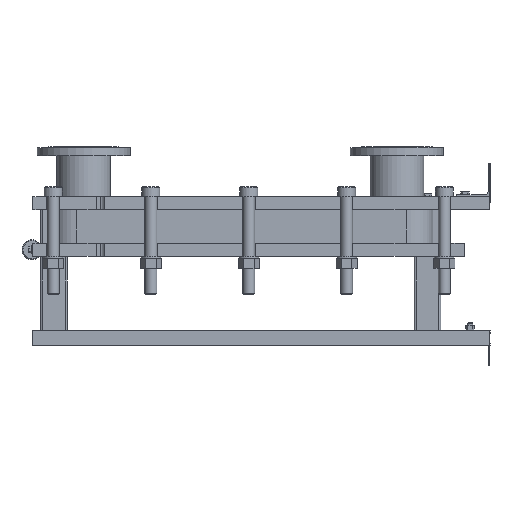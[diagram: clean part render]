
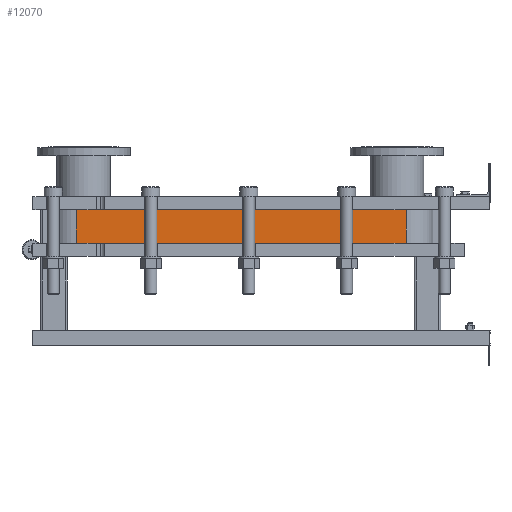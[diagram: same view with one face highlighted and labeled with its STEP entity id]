
A CAD part, left-side view. The second image highlights one B-rep face of the part: STEP entity #12070.
In plain terms, the highlighted planar face has unit normal (-1, 0, 0).
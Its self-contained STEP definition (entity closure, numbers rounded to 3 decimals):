
#1064=LINE('',#21140,#2164);
#1065=LINE('',#21144,#2165);
#1066=LINE('',#21146,#2166);
#1067=LINE('',#21147,#2167);
#2164=VECTOR('',#15790,10.);
#2165=VECTOR('',#15795,10.);
#2166=VECTOR('',#15796,10.);
#2167=VECTOR('',#15797,10.);
#3304=FACE_OUTER_BOUND('',#4091,.T.);
#4091=EDGE_LOOP('',(#9793,#9794,#9795,#9796));
#5677=VERTEX_POINT('',#21137);
#5678=VERTEX_POINT('',#21139);
#5679=VERTEX_POINT('',#21143);
#5680=VERTEX_POINT('',#21145);
#7118=EDGE_CURVE('',#5678,#5677,#1064,.T.);
#7120=EDGE_CURVE('',#5677,#5679,#1065,.T.);
#7121=EDGE_CURVE('',#5680,#5679,#1066,.T.);
#7122=EDGE_CURVE('',#5680,#5678,#1067,.T.);
#9793=ORIENTED_EDGE('',*,*,#7120,.T.);
#9794=ORIENTED_EDGE('',*,*,#7121,.F.);
#9795=ORIENTED_EDGE('',*,*,#7122,.T.);
#9796=ORIENTED_EDGE('',*,*,#7118,.T.);
#11441=PLANE('',#13191);
#12070=ADVANCED_FACE('',(#3304),#11441,.T.);
#13191=AXIS2_PLACEMENT_3D('',#21142,#15793,#15794);
#15790=DIRECTION('',(0.,0.,-1.));
#15793=DIRECTION('center_axis',(-1.,0.,0.));
#15794=DIRECTION('ref_axis',(0.,1.,0.));
#15795=DIRECTION('',(0.,-1.,0.));
#15796=DIRECTION('',(0.,0.,-1.));
#15797=DIRECTION('',(0.,1.,0.));
#21137=CARTESIAN_POINT('',(-248.152,1243.818,-100.05));
#21139=CARTESIAN_POINT('',(-248.152,1243.818,0.));
#21140=CARTESIAN_POINT('',(-248.152,1243.818,0.));
#21142=CARTESIAN_POINT('Origin',(-248.152,251.818,0.));
#21143=CARTESIAN_POINT('',(-248.152,251.818,-100.05));
#21144=CARTESIAN_POINT('',(-248.152,499.818,-100.05));
#21145=CARTESIAN_POINT('',(-248.152,251.818,0.));
#21146=CARTESIAN_POINT('',(-248.152,251.818,0.));
#21147=CARTESIAN_POINT('',(-248.152,251.818,0.));
